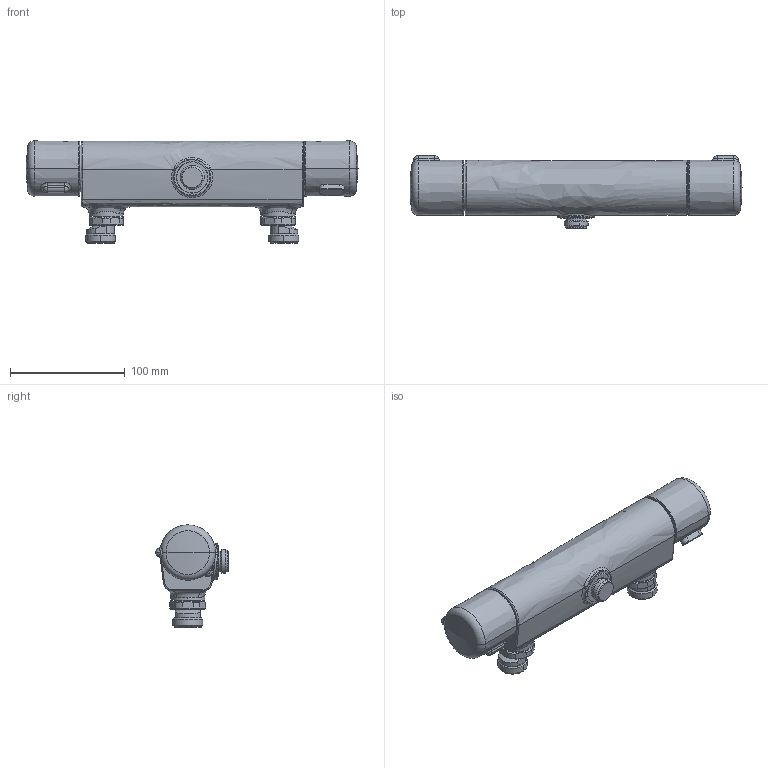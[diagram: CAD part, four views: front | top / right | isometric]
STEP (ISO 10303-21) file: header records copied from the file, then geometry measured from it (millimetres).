
FILE_DESCRIPTION (( 'STEP AP203' ), '1' );
FILE_NAME ('7464-33(2022).STEP', '2022-03-04T09:28:48', ( '' ), ( '' ), 'SwSTEP 2.0', 'SolidWorks 2016', '' );
FILE_SCHEMA (( 'CONFIG_CONTROL_DESIGN' ));
Length unit declared in the file: millimetre
Products named in the file (1): 7464-33(2022)
Bounding box: 289.8 x 63.4 x 89.26 mm (x, y, z)
Volume: 675840.1 mm3; surface area: 63182.1 mm2
Topology: 1 solids, 1 shells, 233 faces, 555 edges, 336 vertices
Faces by surface type: cylinder 62, cone 50, bspline 46, plane 43, torus 18, sphere 14
Entity records: 11399 total; most frequent: CARTESIAN_POINT 6246, ORIENTED_EDGE 1102, DIRECTION 1031, EDGE_CURVE 551, AXIS2_PLACEMENT_3D 446, VERTEX_POINT 334, CIRCLE 258, EDGE_LOOP 247
